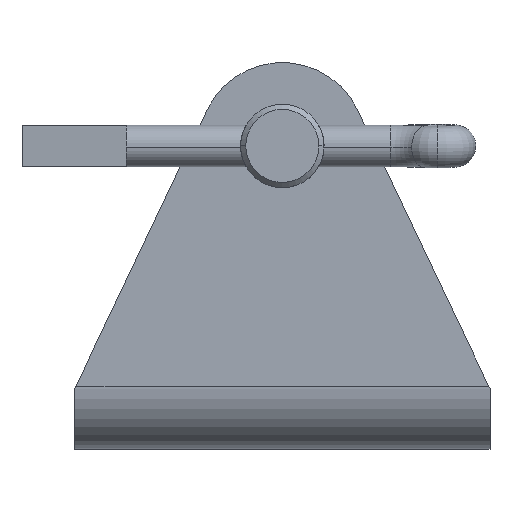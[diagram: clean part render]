
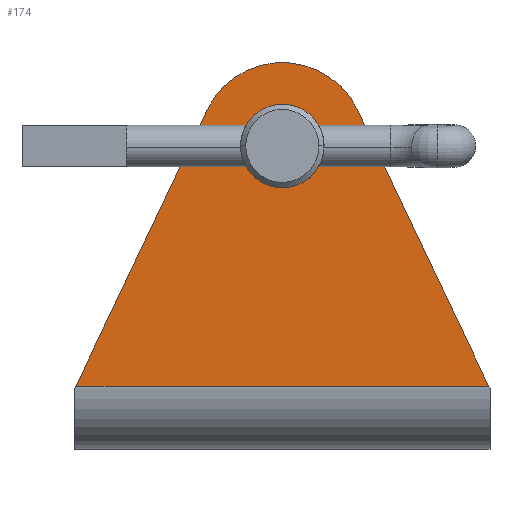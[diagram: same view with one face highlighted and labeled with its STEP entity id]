
A CAD part, top view. The second image highlights one B-rep face of the part: STEP entity #174.
In plain terms, the highlighted planar face has unit normal (0, 0, 1).
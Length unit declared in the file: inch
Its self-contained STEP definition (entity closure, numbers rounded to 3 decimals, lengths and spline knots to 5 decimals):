
#174=ADVANCED_FACE('NONE',(#362,#363),#364,.F.);
#362=FACE_OUTER_BOUND('',#579,.T.);
#363=FACE_BOUND('',#580,.T.);
#364=PLANE('',#581);
#579=EDGE_LOOP('',(#959,#960,#961,#962));
#580=EDGE_LOOP('',(#963,#964));
#581=AXIS2_PLACEMENT_3D('',#965,#966,#967);
#959=ORIENTED_EDGE('',*,*,#1375,.T.);
#960=ORIENTED_EDGE('',*,*,#1388,.T.);
#961=ORIENTED_EDGE('',*,*,#1389,.T.);
#962=ORIENTED_EDGE('',*,*,#1390,.T.);
#963=ORIENTED_EDGE('',*,*,#1345,.F.);
#964=ORIENTED_EDGE('',*,*,#1391,.F.);
#965=CARTESIAN_POINT('',(-0.6467,0.61405,2.11811));
#966=DIRECTION('',(0.0,0.,-1.0));
#967=DIRECTION('',(0.0,-1.0,0.));
#1345=EDGE_CURVE('NONE',#1628,#1624,#1630,.T.);
#1375=EDGE_CURVE('NONE',#1671,#1669,#1672,.T.);
#1388=EDGE_CURVE('NONE',#1669,#1687,#1688,.T.);
#1389=EDGE_CURVE('NONE',#1687,#1689,#1690,.T.);
#1390=EDGE_CURVE('NONE',#1689,#1671,#1691,.T.);
#1391=EDGE_CURVE('NONE',#1624,#1628,#1692,.T.);
#1624=VERTEX_POINT('NONE',#2106);
#1628=VERTEX_POINT('NONE',#2111);
#1630=CIRCLE('',#2114,0.15748);
#1669=VERTEX_POINT('NONE',#2186);
#1671=VERTEX_POINT('NONE',#2198);
#1672=LINE('',#2199,#2200);
#1687=VERTEX_POINT('NONE',#2219);
#1688=LINE('',#2220,#2221);
#1689=VERTEX_POINT('NONE',#2222);
#1690=LINE('',#2223,#2224);
#1691=CIRCLE('',#2225,0.31496);
#1692=CIRCLE('',#2226,0.15748);
#2106=CARTESIAN_POINT('',(-1.58765,0.29909,2.11811));
#2111=CARTESIAN_POINT('',(-1.27269,0.29909,2.11811));
#2114=AXIS2_PLACEMENT_3D('',#2500,#2501,#2502);
#2186=CARTESIAN_POINT('',(-2.2088,-0.60643,2.11811));
#2198=CARTESIAN_POINT('',(-1.71468,0.43418,2.11811));
#2199=CARTESIAN_POINT('',(-1.4485,0.99477,2.11811));
#2200=VECTOR('',#2543,39.37008);
#2219=CARTESIAN_POINT('',(-0.65153,-0.60643,2.11811));
#2220=CARTESIAN_POINT('',(-0.6467,-0.60643,2.11811));
#2221=VECTOR('',#2557,39.37008);
#2222=CARTESIAN_POINT('',(-1.14565,0.43418,2.11811));
#2223=CARTESIAN_POINT('',(-1.12354,0.38763,2.11811));
#2224=VECTOR('',#2558,39.37008);
#2225=AXIS2_PLACEMENT_3D('',#2559,#2560,#2561);
#2226=AXIS2_PLACEMENT_3D('',#2562,#2563,#2564);
#2500=CARTESIAN_POINT('',(-1.43017,0.29909,2.11811));
#2501=DIRECTION('',(0.0,0.0,1.0));
#2502=DIRECTION('',(1.0,0.0,0.0));
#2543=DIRECTION('',(-0.429,-0.903,0.));
#2557=DIRECTION('',(1.0,0.0,0.0));
#2558=DIRECTION('',(-0.429,0.903,0.));
#2559=CARTESIAN_POINT('',(-1.43017,0.29909,2.11811));
#2560=DIRECTION('',(0.0,0.,1.0));
#2561=DIRECTION('',(0.0,1.0,0.));
#2562=CARTESIAN_POINT('',(-1.43017,0.29909,2.11811));
#2563=DIRECTION('',(0.0,0.0,1.0));
#2564=DIRECTION('',(1.0,0.0,0.0));
